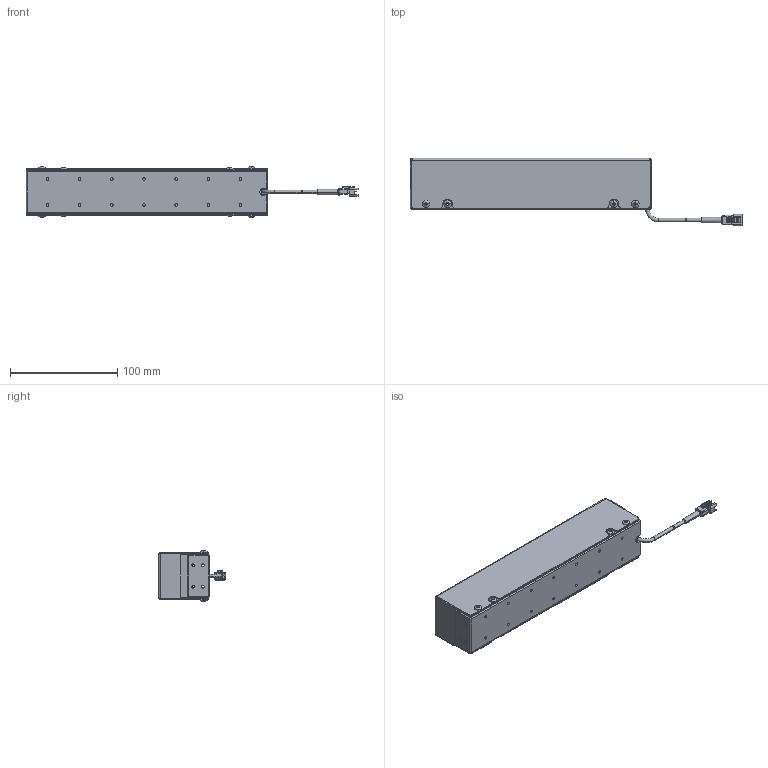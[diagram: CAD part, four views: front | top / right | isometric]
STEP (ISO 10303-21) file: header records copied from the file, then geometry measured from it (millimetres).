
FILE_DESCRIPTION (( 'STEP AP203' ), '1' );
FILE_NAME ('UA38367.STEP', '2021-09-17T01:43:26', ( 'CCS' ), ( 'シーシーエス株式会社' ), 'SwSTEP 2.0', 'SolidWorks 2017', '' );
FILE_SCHEMA (( 'CONFIG_CONTROL_DESIGN' ));
Length unit declared in the file: millimetre
Products named in the file (1): UA38367
Bounding box: 309.45 x 62.75 x 47.6 mm (x, y, z)
Surface area: 98408.3 mm2 (no closed solid volume)
Topology: 0 solids, 19 shells, 572 faces, 1673 edges, 1096 vertices
Faces by surface type: plane 323, cylinder 138, cone 51, bspline 42, sphere 16, torus 2
Entity records: 20811 total; most frequent: CARTESIAN_POINT 5798, DIRECTION 3144, ORIENTED_EDGE 2948, EDGE_CURVE 1665, AXIS2_PLACEMENT_3D 1131, VERTEX_POINT 1096, LINE 882, VECTOR 882
